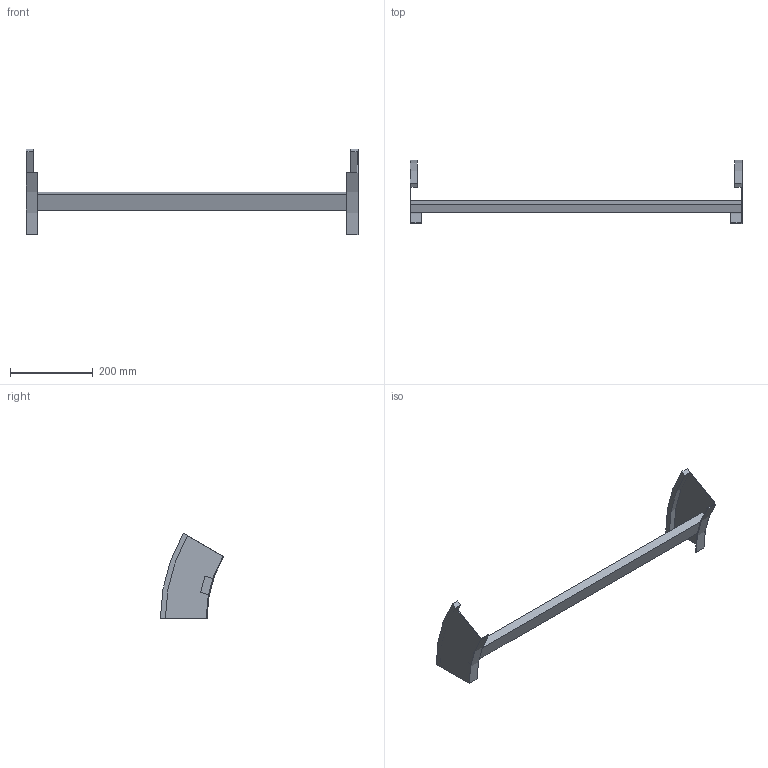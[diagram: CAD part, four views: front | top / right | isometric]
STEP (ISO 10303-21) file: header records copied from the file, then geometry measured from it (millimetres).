
FILE_DESCRIPTION (( 'STEP AP214' ), '1' );
FILE_NAME ('B2_35B3J800.step', '2025-02-21T14:48:56', ( '' ), ( '' ), 'SwSTEP 2.0', 'SolidWorks 2023', '' );
FILE_SCHEMA (( 'AUTOMOTIVE_DESIGN' ));
Length unit declared in the file: millimetre
Products named in the file (3): B2_LONGH.DISCESA_30°_H112.5_R300; B2_35B3J800; TRAVERSINO_800
Assembly tree (3 placements, depth 2):
  B2_35B3J800
    B2_LONGH.DISCESA_30°_H112.5_R300  x2
    TRAVERSINO_800
Bounding box: 800 x 152.69 x 206.25 mm (x, y, z)
Volume: 826191.4 mm3; surface area: 214618 mm2
Topology: 3 solids, 3 shells, 26 faces, 60 edges, 40 vertices
Faces by surface type: plane 18, cylinder 8
Entity records: 544 total; most frequent: DIRECTION 88, CARTESIAN_POINT 82, ORIENTED_EDGE 72, EDGE_CURVE 36, AXIS2_PLACEMENT_3D 30, VECTOR 28, LINE 28, VERTEX_POINT 24
